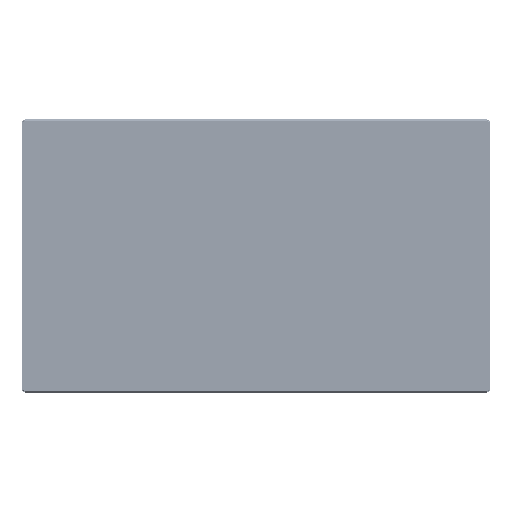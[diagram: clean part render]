
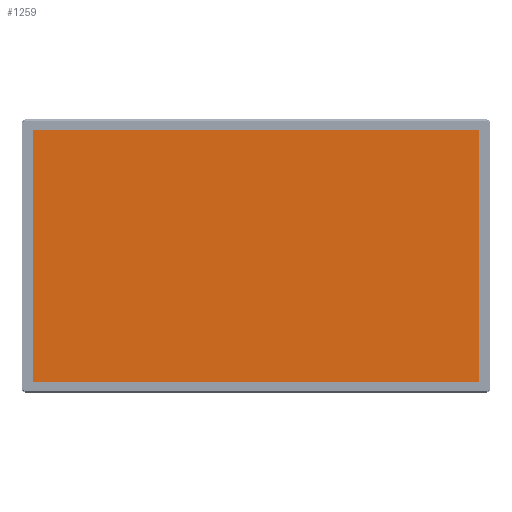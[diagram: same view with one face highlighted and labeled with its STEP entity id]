
A CAD part, top view. The second image highlights one B-rep face of the part: STEP entity #1259.
In plain terms, the highlighted planar face has unit normal (0, 0, 1).
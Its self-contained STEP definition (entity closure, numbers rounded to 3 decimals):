
#508=DIRECTION('',(0.,1.,0.));
#509=VECTOR('',#508,606.);
#510=CARTESIAN_POINT('',(-537.89,-303.,2.7));
#511=LINE('',#510,#509);
#515=DIRECTION('',(1.,0.,0.));
#516=VECTOR('',#515,1075.78);
#517=CARTESIAN_POINT('',(-537.89,303.,2.7));
#518=LINE('',#517,#516);
#522=DIRECTION('',(0.,-1.,0.));
#523=VECTOR('',#522,606.);
#524=CARTESIAN_POINT('',(537.89,303.,2.7));
#525=LINE('',#524,#523);
#529=DIRECTION('',(-1.,0.,0.));
#530=VECTOR('',#529,1075.78);
#531=CARTESIAN_POINT('',(537.89,-303.,2.7));
#532=LINE('',#531,#530);
#764=CARTESIAN_POINT('',(-537.89,303.,2.7));
#765=VERTEX_POINT('',#764);
#766=CARTESIAN_POINT('',(-537.89,-303.,2.7));
#767=VERTEX_POINT('',#766);
#768=CARTESIAN_POINT('',(537.89,303.,2.7));
#769=VERTEX_POINT('',#768);
#770=CARTESIAN_POINT('',(537.89,-303.,2.7));
#771=VERTEX_POINT('',#770);
#1248=CARTESIAN_POINT('',(0.,0.,2.7));
#1249=DIRECTION('',(0.,0.,1.));
#1250=DIRECTION('',(1.,0.,0.));
#1251=AXIS2_PLACEMENT_3D('',#1248,#1249,#1250);
#1252=PLANE('',#1251);
#1253=ORIENTED_EDGE('',*,*,#1200,.T.);
#1254=ORIENTED_EDGE('',*,*,#1215,.T.);
#1255=ORIENTED_EDGE('',*,*,#1229,.T.);
#1256=ORIENTED_EDGE('',*,*,#1242,.T.);
#1257=EDGE_LOOP('',(#1253,#1254,#1255,#1256));
#1258=FACE_OUTER_BOUND('',#1257,.F.);
#1259=ADVANCED_FACE('',(#1258),#1252,.T.);
#1200=EDGE_CURVE('',#767,#765,#511,.T.);
#1215=EDGE_CURVE('',#765,#769,#518,.T.);
#1229=EDGE_CURVE('',#769,#771,#525,.T.);
#1242=EDGE_CURVE('',#771,#767,#532,.T.);
